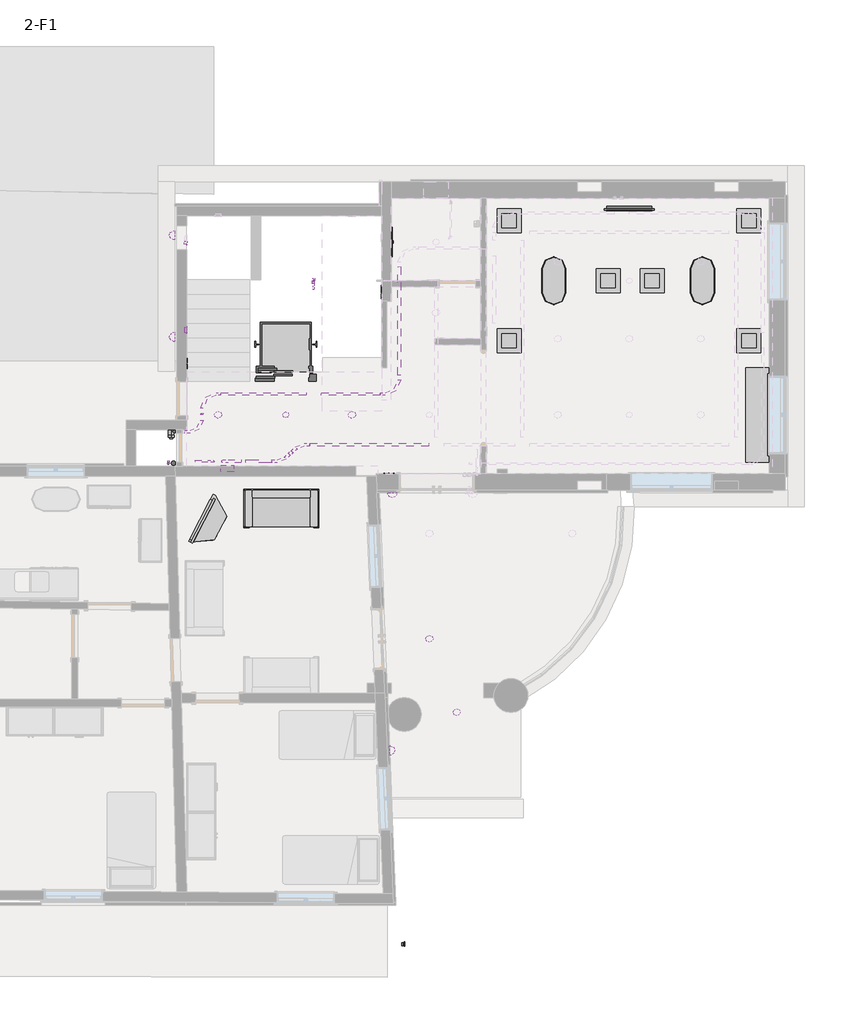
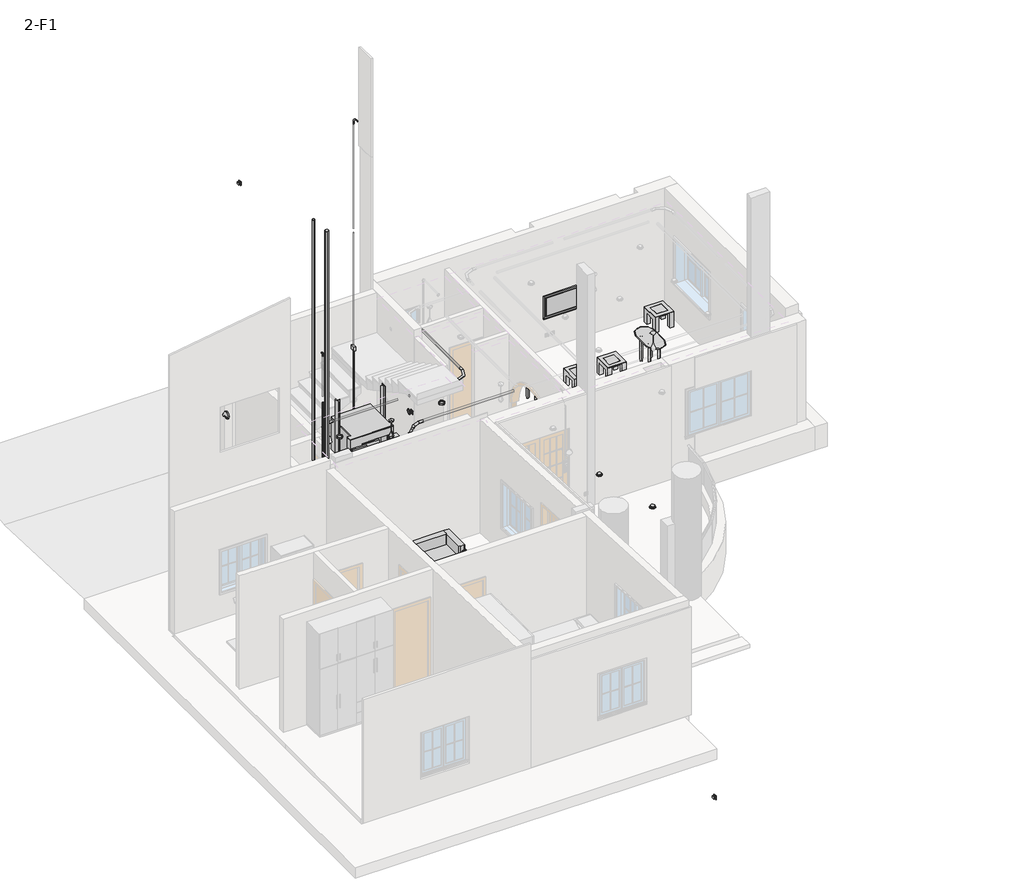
# One storey, part 4 of 6: 15 cable carrier segments, 14 furniture elements, 12 light fixtures, 11 cable carrier fittings, 6 switching devices, 5 pipe segments, 5 proxies, 3 pipe fittings.
"""IFC4 building model written with IfcOpenShell, lengths in millimetres."""

from ifc_helpers import new_model, si_unit, point, frame, frame_2d, origin, place, context, project, spatial, circle_curve, trimmed, segment, composite_curve, outline, extrude, transform, mapped, element, save
from components import distribution_board_24m_2_rows_275x370x140_6ba21ac3, m_electric_lift_4_person_wall_based_type_1_27931067, wall_mounted_socket_ups_wall_mounted_socket_ups_4524048d, m_conduit_elbow_aluminum_standard_a49322c3, m_conduit_elbow_aluminum_standard_2234b05d, m_conduit_elbow_steel_standard_5c2c710b, m_conduit_elbow_steel_standard_9fb14d21, m_conduit_elbow_steel_standard_abbd3826, m_conduit_elbow_without_fittings_emt_standard_47185c4a, m_conduit_elbow_without_fittings_emt_standard_d9bb421d, m_conduit_elbow_without_fittings_emt_standard_b68e504c, m_conduit_junction_box_tee_aluminum_standard_8073d2f8, furniture_40ec15d9, furniture_86dd63d7, furniture_3_furniture_3_a5dc318d, m_table_coffee_800_x_500x_500_ae3acebe, m_table_coffee_800_x_500x_500_b2e9b833, m_table_dining_oval_500x_1000mm_28df0ddd, m_table_dining_oval_500x_1000mm_d5481309, sideboard_1900x_510_x_970mm_7a39ddca, furniture_91679fb3, m_downlight_recessed_can_152mm_incandescent_120v_1ee42939, m_pendant_lamp_art_glass_led_standard_2036dae1, m_recessed_lamp_round_led_e6f06c98, street_light_07_uk_wall_mounted_94188376, m_bend_pvc_sch_40_dwv_standard_b153bf5a, m_plug_pvc_sch_40_dwv_standard_6c40de1c, m_tee_sanitary_pvc_sch_40_dwv_standard_d1848222, switching_device_8f59fbb7, switching_device_ab05ab5c

model = new_model("IFC4")

# Units and contexts
model_context = context("Model", 3, world=origin())
ifc_project = project(units=[si_unit("LENGTHUNIT", "METRE", prefix="MILLI")], contexts=[model_context])

# Site, building, storey
site = spatial("IfcSite", under=ifc_project)
building = spatial("IfcBuilding", under=site)
storey = spatial("IfcBuildingStorey", under=building, Name="2-F1", Elevation=3000.0)

# Proxies
placement = place(None, origin())
distribution_board_24m_2_rows_275x370x140_shape = distribution_board_24m_2_rows_275x370x140_6ba21ac3(model_context)
element("IfcBuildingElementProxy", 1, Name="Distribution Board : 24M 2 rows 275x370x140", ObjectType="Distribution Board : 24M 2 rows 275x370x140", at=placement, inside=storey, context=model_context, shape_type="MappedRepresentation", body=[
    mapped(distribution_board_24m_2_rows_275x370x140_shape, transform((-4017.4765921, 3212.4258078, 4200.0), x_axis=(-1.0, 0.0, 0.0), y_axis=(0.0, -1.0, 0.0), z_axis=(0.0, 0.0, 1.0))),
])
m_electric_lift_4_person_wall_based_type_1_shape = m_electric_lift_4_person_wall_based_type_1_27931067(model_context)
element("IfcBuildingElementProxy", 2, Name="M_Electric Lift-4 person wall based : Type 1", ObjectType="M_Electric Lift-4 person wall based : Type 1", at=placement, inside=storey, context=model_context, shape_type="MappedRepresentation", body=[
    mapped(m_electric_lift_4_person_wall_based_type_1_shape, transform((-2932.4765921, 5159.4560655, 3000.0), x_axis=(1.0, 0.0, 0.0), y_axis=(0.0, 1.0, 0.0), z_axis=(0.0, 0.0, 1.0))),
])
wall_mounted_socket_ups_wall_mounted_socket_ups_shape = wall_mounted_socket_ups_wall_mounted_socket_ups_4524048d(model_context)
element("IfcBuildingElementProxy", 3, Name="WALL MOUNTED SOCKET : WALL MOUNTED SOCKET", ObjectType="WALL MOUNTED SOCKET : WALL MOUNTED SOCKET", at=placement, inside=storey, context=model_context, shape_type="MappedRepresentation", body=[
    mapped(wall_mounted_socket_ups_wall_mounted_socket_ups_shape, transform((-2887.8606653, 3326.4863231, 3450.0), x_axis=(-1.0, 0.0, 0.0), y_axis=(0.0, 0.0, 1.0), z_axis=(0.0, 1.0, 0.0))),
])
element("IfcBuildingElementProxy", 4, Name="WALL MOUNTED SOCKET UPS : WALL MOUNTED SOCKET UPS", ObjectType="WALL MOUNTED SOCKET UPS : WALL MOUNTED SOCKET UPS", at=placement, inside=storey, context=model_context, shape_type="MappedRepresentation", body=[
    mapped(wall_mounted_socket_ups_wall_mounted_socket_ups_shape, transform((-4857.4765921, 7944.4560655, 11451.0), x_axis=(0.0, 1.0, 0.0), y_axis=(0.0, 0.0, 1.0), z_axis=(1.0, 0.0, 0.0))),
])
element("IfcBuildingElementProxy", 5, Name="WALL MOUNTED WATERPROOF SOCKET : WALL MOUNTED WATERPROOF SOCKET", ObjectType="WALL MOUNTED WATERPROOF SOCKET : WALL MOUNTED WATERPROOF SOCKET", at=placement, inside=storey, context=model_context, shape_type="MappedRepresentation", body=[
    mapped(wall_mounted_socket_ups_wall_mounted_socket_ups_shape, transform((-359.3951562, -6541.305082, 1081.0), x_axis=(0.0, 1.0, 0.0), y_axis=(0.0, 0.0, 1.0), z_axis=(1.0, 0.0, 0.0))),
])

# Cable carrier fittings
m_conduit_elbow_aluminum_standard_shape = m_conduit_elbow_aluminum_standard_a49322c3(model_context)
element("IfcCableCarrierFitting", 6, ObjectType="M_Conduit Elbow - Aluminum : Standard", at=placement, inside=storey, context=model_context, shape_type="MappedRepresentation", body=[
    mapped(m_conduit_elbow_aluminum_standard_shape, transform((-4542.2915332, 4040.3, 6269.835), x_axis=(1.0, 0.0, 0.0), y_axis=(0.0, 1.0, 0.0), z_axis=(0.0, 0.0, 1.0))),
])
m_conduit_elbow_aluminum_standard_2_shape = m_conduit_elbow_aluminum_standard_2234b05d(model_context)
element("IfcCableCarrierFitting", 7, ObjectType="M_Conduit Elbow - Aluminum : Standard", at=placement, inside=storey, context=model_context, shape_type="MappedRepresentation", body=[
    mapped(m_conduit_elbow_aluminum_standard_2_shape, transform((-2523.8703929, 3771.6620874, 6272.1), x_axis=(-1.0, 0.0, 0.0), y_axis=(0.0, -1.0, 0.0), z_axis=(0.0, 0.0, 1.0))),
])
element("IfcCableCarrierFitting", 8, ObjectType="M_Conduit Elbow - Aluminum : Standard", at=placement, inside=storey, context=model_context, shape_type="MappedRepresentation", body=[
    mapped(m_conduit_elbow_aluminum_standard_2_shape, transform((-2887.5, 3432.4, 6272.1), x_axis=(1.0, 0.0, 0.0), y_axis=(0.0, 1.0, 0.0), z_axis=(0.0, 0.0, 1.0))),
])
m_conduit_elbow_steel_standard_shape = m_conduit_elbow_steel_standard_5c2c710b(model_context)
element("IfcCableCarrierFitting", 9, ObjectType="M_Conduit Elbow - Steel : Standard", at=placement, inside=storey, context=model_context, shape_type="MappedRepresentation", body=[
    mapped(m_conduit_elbow_steel_standard_shape, transform((-2028.5640921, 5039.7000599, 2682.5401079), x_axis=(1.0, 0.0, 0.0), y_axis=(0.0, 0.9999999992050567, -3.987338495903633e-05), z_axis=(0.0, 3.987338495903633e-05, 0.9999999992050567))),
])
m_conduit_elbow_steel_standard_2_shape = m_conduit_elbow_steel_standard_9fb14d21(model_context)
element("IfcCableCarrierFitting", 10, ObjectType="M_Conduit Elbow - Steel : Standard", at=placement, inside=storey, context=model_context, shape_type="MappedRepresentation", body=[
    mapped(m_conduit_elbow_steel_standard_2_shape, transform((-464.4765921, 4820.3, 6269.835), x_axis=(1.0, 0.0, 0.0), y_axis=(0.0, 1.0, 0.0), z_axis=(0.0, 0.0, 1.0))),
])
element("IfcCableCarrierFitting", 11, ObjectType="M_Conduit Elbow - Steel : Standard", at=placement, inside=storey, context=model_context, shape_type="MappedRepresentation", body=[
    mapped(m_conduit_elbow_steel_standard_2_shape, transform((-4542.2915332, 4820.3, 6269.835), x_axis=(-1.0, 0.0, 0.0), y_axis=(0.0, -1.0, 0.0), z_axis=(0.0, 0.0, 1.0))),
])
m_conduit_elbow_steel_standard_3_shape = m_conduit_elbow_steel_standard_abbd3826(model_context)
element("IfcCableCarrierFitting", 12, ObjectType="M_Conduit Elbow - Steel : Standard", at=placement, inside=storey, context=model_context, shape_type="MappedRepresentation", body=[
    mapped(m_conduit_elbow_steel_standard_3_shape, transform((-2232.4765921, 7159.7000558, 12888.2999077), x_axis=(0.0, 0.0, 1.0), y_axis=(-3.9005169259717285e-06, -0.999999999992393, 0.0), z_axis=(0.999999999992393, -3.9005169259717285e-06, 0.0))),
])
m_conduit_elbow_without_fittings_emt_standard_shape = m_conduit_elbow_without_fittings_emt_standard_47185c4a(model_context)
element("IfcCableCarrierFitting", 13, ObjectType="M_Conduit Elbow - without Fittings - EMT : Standard", at=placement, inside=storey, context=model_context, shape_type="MappedRepresentation", body=[
    mapped(m_conduit_elbow_without_fittings_emt_standard_shape, transform((-4307.5, 3432.4, 6280.825), x_axis=(0.0, 0.0, 1.0), y_axis=(-1.0, 0.0, 0.0), z_axis=(0.0, -1.0, 0.0))),
])
m_conduit_elbow_without_fittings_emt_standard_2_shape = m_conduit_elbow_without_fittings_emt_standard_d9bb421d(model_context)
element("IfcCableCarrierFitting", 14, ObjectType="M_Conduit Elbow - without Fittings - EMT : Standard", at=placement, inside=storey, context=model_context, shape_type="MappedRepresentation", body=[
    mapped(m_conduit_elbow_without_fittings_emt_standard_2_shape, transform((-4107.5, 3432.4, 6272.1), x_axis=(0.0, 0.0, 1.0), y_axis=(1.0, 0.0, 0.0), z_axis=(0.0, 1.0, 0.0))),
])
m_conduit_elbow_without_fittings_emt_standard_3_shape = m_conduit_elbow_without_fittings_emt_standard_b68e504c(model_context)
element("IfcCableCarrierFitting", 15, ObjectType="M_Conduit Elbow - without Fittings - EMT : Standard", at=placement, inside=storey, context=model_context, shape_type="MappedRepresentation", body=[
    mapped(m_conduit_elbow_without_fittings_emt_standard_3_shape, transform((-3437.4765921, 5039.7000558, 2682.4363636), x_axis=(0.0, 0.0, 1.0), y_axis=(1.0, 0.0, 0.0), z_axis=(0.0, 1.0, 0.0))),
])
m_conduit_junction_box_tee_aluminum_standard_shape = m_conduit_junction_box_tee_aluminum_standard_8073d2f8(model_context)
element("IfcCableCarrierFitting", 16, ObjectType="M_Conduit Junction Box - Tee - Aluminum : Standard", at=placement, inside=storey, context=model_context, shape_type="MappedRepresentation", body=[
    mapped(m_conduit_junction_box_tee_aluminum_standard_shape, transform((-2232.4765921, 7159.7000558, 6288.29), x_axis=(0.0, 0.0, -1.0), y_axis=(0.0, 1.0, 0.0), z_axis=(1.0, 0.0, 0.0))),
])

# Cable carrier segments
element("IfcCableCarrierSegment", 17, ObjectType="Electrical Metallic Tubing (EMT)", at=placement, inside=storey, context=model_context, shape_type="SweptSolid", body=[
    extrude(outline(composite_curve([segment(trimmed(circle_curve(frame_2d((-3437.4765921, 5039.7000558)), 11.71), [point((-3425.7665921, 5039.7000558))], [point((-3437.4765921, 5027.9900558))], False, "CARTESIAN"), True, "CONTINUOUS"), segment(trimmed(circle_curve(frame_2d((-3437.4765921, 5039.7000558)), 11.71), [point((-3437.4765921, 5027.9900558))], [point((-3449.1865921, 5039.7000558))], False, "CARTESIAN"), True, "CONTINUOUS"), segment(trimmed(circle_curve(frame_2d((-3437.4765921, 5039.7000558)), 11.71), [point((-3449.1865921, 5039.7000558))], [point((-3437.4765921, 5051.4100558))], False, "CARTESIAN"), True, "CONTINUOUS"), segment(trimmed(circle_curve(frame_2d((-3437.4765921, 5039.7000558)), 11.71), [point((-3437.4765921, 5051.4100558))], [point((-3425.7665921, 5039.7000558))], False, "CARTESIAN"), True, "CONTINUOUS")], self_intersect=False)), frame((0.0, 0.0, 1622.4363636), z_axis=(0.0, 0.0, 1.0), x_axis=(1.0, 0.0, 0.0)), (0.0, 0.0, 1.0), 876.84),
])
element("IfcCableCarrierSegment", 18, ObjectType="Low Current", at=placement, inside=storey, context=model_context, shape_type="SweptSolid", body=[
    extrude(outline(composite_curve([segment(trimmed(circle_curve(frame_2d((5039.7000599, 2682.5401079)), 11.71), [point((5027.9900599, 2682.5405748))], [point((5039.7005268, 2694.2501078))], False, "CARTESIAN"), True, "CONTINUOUS"), segment(trimmed(circle_curve(frame_2d((5039.7000599, 2682.5401079)), 11.71), [point((5039.7005268, 2694.2501078))], [point((5051.4100599, 2682.5396409))], False, "CARTESIAN"), True, "CONTINUOUS"), segment(trimmed(circle_curve(frame_2d((5039.7000599, 2682.5401079)), 11.71), [point((5051.4100599, 2682.5396409))], [point((5039.699593, 2670.8301079))], False, "CARTESIAN"), True, "CONTINUOUS"), segment(trimmed(circle_curve(frame_2d((5039.7000599, 2682.5401079)), 11.71), [point((5039.699593, 2670.8301079))], [point((5027.9900599, 2682.5405748))], False, "CARTESIAN"), True, "CONTINUOUS")], self_intersect=False)), frame((-3254.3165921, 0.0, 0.0), z_axis=(1.0, 0.0, 0.0), x_axis=(0.0, 1.0, 0.0)), (0.0, 0.0, 1.0), 1036.84),
])
element("IfcCableCarrierSegment", 19, ObjectType="Low Current", at=placement, inside=storey, context=model_context, shape_type="SweptSolid", body=[
    extrude(outline(composite_curve([segment(trimmed(circle_curve(frame_2d((-2232.4765921, 7159.7000558)), 11.71), [point((-2220.7665921, 7159.7000558))], [point((-2232.4765921, 7147.9900558))], False, "CARTESIAN"), True, "CONTINUOUS"), segment(trimmed(circle_curve(frame_2d((-2232.4765921, 7159.7000558)), 11.71), [point((-2232.4765921, 7147.9900558))], [point((-2244.1865921, 7159.7000558))], False, "CARTESIAN"), True, "CONTINUOUS"), segment(trimmed(circle_curve(frame_2d((-2232.4765921, 7159.7000558)), 11.71), [point((-2244.1865921, 7159.7000558))], [point((-2232.4765921, 7171.4100558))], False, "CARTESIAN"), True, "CONTINUOUS"), segment(trimmed(circle_curve(frame_2d((-2232.4765921, 7159.7000558)), 11.71), [point((-2232.4765921, 7171.4100558))], [point((-2220.7665921, 7159.7000558))], False, "CARTESIAN"), True, "CONTINUOUS")], self_intersect=False)), frame((0.0, 0.0, 2740.3951846), z_axis=(0.0, 0.0, 1.0), x_axis=(1.0, 0.0, 0.0)), (0.0, 0.0, 1.0), 3500.0),
])
element("IfcCableCarrierSegment", 20, ObjectType="Low Current", at=placement, inside=storey, context=model_context, shape_type="SweptSolid", body=[
    extrude(outline(composite_curve([segment(trimmed(circle_curve(frame_2d((-5112.4765921, 4049.2572999)), 27.9), [point((-5140.3765921, 4049.2572999))], [point((-5112.4765921, 4077.1572999))], False, "CARTESIAN"), True, "CONTINUOUS"), segment(trimmed(circle_curve(frame_2d((-5112.4765921, 4049.2572999)), 27.9), [point((-5112.4765921, 4077.1572999))], [point((-5084.5765921, 4049.2572999))], False, "CARTESIAN"), True, "CONTINUOUS"), segment(trimmed(circle_curve(frame_2d((-5112.4765921, 4049.2572999)), 27.9), [point((-5084.5765921, 4049.2572999))], [point((-5112.4765921, 4021.3572999))], False, "CARTESIAN"), True, "CONTINUOUS"), segment(trimmed(circle_curve(frame_2d((-5112.4765921, 4049.2572999)), 27.9), [point((-5112.4765921, 4021.3572999))], [point((-5140.3765921, 4049.2572999))], False, "CARTESIAN"), True, "CONTINUOUS")], self_intersect=False)), frame((0.0, 0.0, -3364.2), z_axis=(0.0, 0.0, 1.0), x_axis=(1.0, 0.0, 0.0)), (0.0, 0.0, 1.0), 5915.2),
])
element("IfcCableCarrierSegment", 21, ObjectType="Low Current", at=placement, inside=storey, context=model_context, shape_type="SweptSolid", body=[
    extrude(outline(composite_curve([segment(trimmed(circle_curve(frame_2d((-5112.4765921, 4049.2572999)), 27.9), [point((-5140.3765921, 4049.2572999))], [point((-5112.4765921, 4077.1572999))], False, "CARTESIAN"), True, "CONTINUOUS"), segment(trimmed(circle_curve(frame_2d((-5112.4765921, 4049.2572999)), 27.9), [point((-5112.4765921, 4077.1572999))], [point((-5084.5765921, 4049.2572999))], False, "CARTESIAN"), True, "CONTINUOUS"), segment(trimmed(circle_curve(frame_2d((-5112.4765921, 4049.2572999)), 27.9), [point((-5084.5765921, 4049.2572999))], [point((-5112.4765921, 4021.3572999))], False, "CARTESIAN"), True, "CONTINUOUS"), segment(trimmed(circle_curve(frame_2d((-5112.4765921, 4049.2572999)), 27.9), [point((-5112.4765921, 4021.3572999))], [point((-5140.3765921, 4049.2572999))], False, "CARTESIAN"), True, "CONTINUOUS")], self_intersect=False)), frame((0.0, 0.0, 2869.0), z_axis=(0.0, 0.0, 1.0), x_axis=(1.0, 0.0, 0.0)), (0.0, 0.0, 1.0), 9986.8),
])
element("IfcCableCarrierSegment", 22, ObjectType="Low Current", at=placement, inside=storey, context=model_context, shape_type="SweptSolid", body=[
    extrude(outline(composite_curve([segment(trimmed(circle_curve(frame_2d((4820.3, 6269.835)), 27.9), [point((4792.4, 6269.835))], [point((4820.3, 6297.735))], False, "CARTESIAN"), True, "CONTINUOUS"), segment(trimmed(circle_curve(frame_2d((4820.3, 6269.835)), 27.9), [point((4820.3, 6297.735))], [point((4848.2, 6269.835))], False, "CARTESIAN"), True, "CONTINUOUS"), segment(trimmed(circle_curve(frame_2d((4820.3, 6269.835)), 27.9), [point((4848.2, 6269.835))], [point((4820.3, 6241.935))], False, "CARTESIAN"), True, "CONTINUOUS"), segment(trimmed(circle_curve(frame_2d((4820.3, 6269.835)), 27.9), [point((4820.3, 6241.935))], [point((4792.4, 6269.835))], False, "CARTESIAN"), True, "CONTINUOUS")], self_intersect=False)), frame((-4148.5915332, 0.0, 0.0), z_axis=(1.0, 0.0, 0.0), x_axis=(0.0, 1.0, 0.0)), (0.0, 0.0, 1.0), 1757.1149411),
])
element("IfcCableCarrierSegment", 23, ObjectType="Low Current", at=placement, inside=storey, context=model_context, shape_type="SweptSolid", body=[
    extrude(outline(composite_curve([segment(trimmed(circle_curve(frame_2d((4820.3, 6269.835)), 27.9), [point((4792.4, 6269.835))], [point((4820.3, 6297.735))], False, "CARTESIAN"), True, "CONTINUOUS"), segment(trimmed(circle_curve(frame_2d((4820.3, 6269.835)), 27.9), [point((4820.3, 6297.735))], [point((4848.2, 6269.835))], False, "CARTESIAN"), True, "CONTINUOUS"), segment(trimmed(circle_curve(frame_2d((4820.3, 6269.835)), 27.9), [point((4848.2, 6269.835))], [point((4820.3, 6241.935))], False, "CARTESIAN"), True, "CONTINUOUS"), segment(trimmed(circle_curve(frame_2d((4820.3, 6269.835)), 27.9), [point((4820.3, 6241.935))], [point((4792.4, 6269.835))], False, "CARTESIAN"), True, "CONTINUOUS")], self_intersect=False)), frame((-2073.4765921, 0.0, 0.0), z_axis=(1.0, 0.0, 0.0), x_axis=(0.0, 1.0, 0.0)), (0.0, 0.0, 1.0), 1215.3),
])
element("IfcCableCarrierSegment", 24, ObjectType="Low Current", at=placement, inside=storey, context=model_context, shape_type="SweptSolid", body=[
    extrude(outline(composite_curve([segment(trimmed(circle_curve(frame_2d((6269.835, -464.4765921)), 27.9), [point((6269.835, -492.3765921))], [point((6241.935, -464.4765921))], False, "CARTESIAN"), True, "CONTINUOUS"), segment(trimmed(circle_curve(frame_2d((6269.835, -464.4765921)), 27.9), [point((6241.935, -464.4765921))], [point((6269.835, -436.5765921))], False, "CARTESIAN"), True, "CONTINUOUS"), segment(trimmed(circle_curve(frame_2d((6269.835, -464.4765921)), 27.9), [point((6269.835, -436.5765921))], [point((6297.735, -464.4765921))], False, "CARTESIAN"), True, "CONTINUOUS"), segment(trimmed(circle_curve(frame_2d((6269.835, -464.4765921)), 27.9), [point((6297.735, -464.4765921))], [point((6269.835, -492.3765921))], False, "CARTESIAN"), True, "CONTINUOUS")], self_intersect=False)), frame((0.0, 5214.0, 0.0), z_axis=(0.0, 1.0, 0.0), x_axis=(0.0, 0.0, 1.0)), (0.0, 0.0, 1.0), 2232.6),
])
element("IfcCableCarrierSegment", 25, ObjectType="Low Current", at=placement, inside=storey, context=model_context, shape_type="SweptSolid", body=[
    extrude(outline(composite_curve([segment(trimmed(circle_curve(frame_2d((6269.835, -4542.2915332)), 27.9), [point((6269.835, -4514.3915332))], [point((6297.735, -4542.2915332))], False, "CARTESIAN"), True, "CONTINUOUS"), segment(trimmed(circle_curve(frame_2d((6269.835, -4542.2915332)), 27.9), [point((6297.735, -4542.2915332))], [point((6269.835, -4570.1915332))], False, "CARTESIAN"), True, "CONTINUOUS"), segment(trimmed(circle_curve(frame_2d((6269.835, -4542.2915332)), 27.9), [point((6269.835, -4570.1915332))], [point((6241.935, -4542.2915332))], False, "CARTESIAN"), True, "CONTINUOUS"), segment(trimmed(circle_curve(frame_2d((6269.835, -4542.2915332)), 27.9), [point((6241.935, -4542.2915332))], [point((6269.835, -4514.3915332))], False, "CARTESIAN"), True, "CONTINUOUS")], self_intersect=False)), frame((0.0, 4395.9, 0.0), z_axis=(0.0, 1.0, 0.0), x_axis=(0.0, 0.0, 1.0)), (0.0, 0.0, 1.0), 30.7),
])
element("IfcCableCarrierSegment", 26, ObjectType="Low Current", at=placement, inside=storey, context=model_context, shape_type="SweptSolid", body=[
    extrude(outline(composite_curve([segment(trimmed(circle_curve(frame_2d((-2232.4765921, 7159.7000558)), 11.71), [point((-2220.7665921, 7159.7000558))], [point((-2232.4765921, 7147.9900558))], False, "CARTESIAN"), True, "CONTINUOUS"), segment(trimmed(circle_curve(frame_2d((-2232.4765921, 7159.7000558)), 11.71), [point((-2232.4765921, 7147.9900558))], [point((-2244.1865921, 7159.7000558))], False, "CARTESIAN"), True, "CONTINUOUS"), segment(trimmed(circle_curve(frame_2d((-2232.4765921, 7159.7000558)), 11.71), [point((-2244.1865921, 7159.7000558))], [point((-2232.4765921, 7171.4100558))], False, "CARTESIAN"), True, "CONTINUOUS"), segment(trimmed(circle_curve(frame_2d((-2232.4765921, 7159.7000558)), 11.71), [point((-2232.4765921, 7171.4100558))], [point((-2220.7665921, 7159.7000558))], False, "CARTESIAN"), True, "CONTINUOUS")], self_intersect=False)), frame((0.0, 0.0, 9696.29), z_axis=(0.0, 0.0, 1.0), x_axis=(1.0, 0.0, 0.0)), (0.0, 0.0, 1.0), 3003.096802),
])
element("IfcCableCarrierSegment", 27, ObjectType="Low Current", at=placement, inside=storey, context=model_context, shape_type="SweptSolid", body=[
    extrude(outline(composite_curve([segment(trimmed(circle_curve(frame_2d((-2232.4765921, 7159.7000558)), 11.71), [point((-2220.7665921, 7159.7000558))], [point((-2232.4765921, 7147.9900558))], False, "CARTESIAN"), True, "CONTINUOUS"), segment(trimmed(circle_curve(frame_2d((-2232.4765921, 7159.7000558)), 11.71), [point((-2232.4765921, 7147.9900558))], [point((-2244.1865921, 7159.7000558))], False, "CARTESIAN"), True, "CONTINUOUS"), segment(trimmed(circle_curve(frame_2d((-2232.4765921, 7159.7000558)), 11.71), [point((-2244.1865921, 7159.7000558))], [point((-2232.4765921, 7171.4100558))], False, "CARTESIAN"), True, "CONTINUOUS"), segment(trimmed(circle_curve(frame_2d((-2232.4765921, 7159.7000558)), 11.71), [point((-2232.4765921, 7171.4100558))], [point((-2220.7665921, 7159.7000558))], False, "CARTESIAN"), True, "CONTINUOUS")], self_intersect=False)), frame((0.0, 0.0, 6346.29), z_axis=(0.0, 0.0, 1.0), x_axis=(1.0, 0.0, 0.0)), (0.0, 0.0, 1.0), 3234.0),
])
element("IfcCableCarrierSegment", 28, ObjectType="Power", at=placement, inside=storey, context=model_context, shape_type="SweptSolid", body=[
    extrude(outline(composite_curve([segment(trimmed(circle_curve(frame_2d((3771.6620874, 6272.1)), 30.165), [point((3801.8270874, 6272.1))], [point((3771.6620874, 6241.935))], False, "CARTESIAN"), True, "CONTINUOUS"), segment(trimmed(circle_curve(frame_2d((3771.6620874, 6272.1)), 30.165), [point((3771.6620874, 6241.935))], [point((3741.4970874, 6272.1))], False, "CARTESIAN"), True, "CONTINUOUS"), segment(trimmed(circle_curve(frame_2d((3771.6620874, 6272.1)), 30.165), [point((3741.4970874, 6272.1))], [point((3771.6620874, 6302.265))], False, "CARTESIAN"), True, "CONTINUOUS"), segment(trimmed(circle_curve(frame_2d((3771.6620874, 6272.1)), 30.165), [point((3771.6620874, 6302.265))], [point((3801.8270874, 6272.1))], False, "CARTESIAN"), True, "CONTINUOUS")], self_intersect=False)), frame((-2314.4845421, 0.0, 0.0), z_axis=(1.0, 0.0, 0.0), x_axis=(0.0, 1.0, 0.0)), (0.0, 0.0, 1.0), 2458.0079499),
])
element("IfcCableCarrierSegment", 29, ObjectType="Power", at=placement, inside=storey, context=model_context, shape_type="SweptSolid", body=[
    extrude(outline(composite_curve([segment(trimmed(circle_curve(frame_2d((0.0, 30.165)), 30.165), [point((30.165, 30.165))], [point((0.0, 0.0))], False, "CARTESIAN"), True, "CONTINUOUS"), segment(trimmed(circle_curve(frame_2d((0.0, 30.165)), 30.165), [point((0.0, 0.0))], [point((-30.165, 30.165))], False, "CARTESIAN"), True, "CONTINUOUS"), segment(trimmed(circle_curve(frame_2d((0.0, 30.165)), 30.165), [point((-30.165, 30.165))], [point((0.0, 60.33))], False, "CARTESIAN"), True, "CONTINUOUS"), segment(trimmed(circle_curve(frame_2d((0.0, 30.165)), 30.165), [point((0.0, 60.33))], [point((30.165, 30.165))], False, "CARTESIAN"), True, "CONTINUOUS")], self_intersect=False)), frame((-2734.4010067, 3575.2395351, 6302.265), z_axis=(0.7311811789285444, 0.6821833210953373, -6.838582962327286e-12), x_axis=(0.6821833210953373, -0.7311811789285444, 7.329248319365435e-12)), (0.0, 0.0, 1.0), 78.5463606),
])
element("IfcCableCarrierSegment", 30, ObjectType="Power", at=placement, inside=storey, context=model_context, shape_type="SweptSolid", body=[
    extrude(outline(composite_curve([segment(trimmed(circle_curve(frame_2d((3432.4, 6272.1)), 30.165), [point((3402.235, 6272.1))], [point((3432.4, 6302.265))], False, "CARTESIAN"), True, "CONTINUOUS"), segment(trimmed(circle_curve(frame_2d((3432.4, 6272.1)), 30.165), [point((3432.4, 6302.265))], [point((3462.565, 6272.1))], False, "CARTESIAN"), True, "CONTINUOUS"), segment(trimmed(circle_curve(frame_2d((3432.4, 6272.1)), 30.165), [point((3462.565, 6272.1))], [point((3432.4, 6241.935))], False, "CARTESIAN"), True, "CONTINUOUS"), segment(trimmed(circle_curve(frame_2d((3432.4, 6272.1)), 30.165), [point((3432.4, 6241.935))], [point((3402.235, 6272.1))], False, "CARTESIAN"), True, "CONTINUOUS")], self_intersect=False)), frame((-3631.25, 0.0, 0.0), z_axis=(1.0, 0.0, 0.0), x_axis=(0.0, 1.0, 0.0)), (0.0, 0.0, 1.0), 534.3641491),
])
element("IfcCableCarrierSegment", 31, ObjectType="Power", at=placement, inside=storey, context=model_context, shape_type="SweptSolid", body=[
    extrude(outline(composite_curve([segment(trimmed(circle_curve(frame_2d((-5128.468151, 3394.2560655)), 44.45), [point((-5172.918151, 3394.2560655))], [point((-5128.468151, 3438.7060655))], False, "CARTESIAN"), True, "CONTINUOUS"), segment(trimmed(circle_curve(frame_2d((-5128.468151, 3394.2560655)), 44.45), [point((-5128.468151, 3438.7060655))], [point((-5084.018151, 3394.2560655))], False, "CARTESIAN"), True, "CONTINUOUS"), segment(trimmed(circle_curve(frame_2d((-5128.468151, 3394.2560655)), 44.45), [point((-5084.018151, 3394.2560655))], [point((-5128.468151, 3349.8060655))], False, "CARTESIAN"), True, "CONTINUOUS"), segment(trimmed(circle_curve(frame_2d((-5128.468151, 3394.2560655)), 44.45), [point((-5128.468151, 3349.8060655))], [point((-5172.918151, 3394.2560655))], False, "CARTESIAN"), True, "CONTINUOUS")], self_intersect=False)), frame((0.0, 0.0, -600.0), z_axis=(0.0, 0.0, 1.0), x_axis=(1.0, 0.0, 0.0)), (0.0, 0.0, 1.0), 13540.0),
])

# Furniture
furniture_shape = furniture_40ec15d9(model_context)
element("IfcFurniture", 32, ObjectType="M_TV Stand : M_TV Stand", at=placement, inside=storey, context=model_context, shape_type="MappedRepresentation", body=[
    mapped(furniture_shape, transform((-4097.7601109, 2163.8383378, 3000.0), x_axis=(-0.46448476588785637, -0.8855811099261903, 0.0), y_axis=(0.8855811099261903, -0.46448476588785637, 0.0), z_axis=(0.0, 0.0, 1.0))),
])
furniture_2_shape = furniture_86dd63d7(model_context)
element("IfcFurniture", 33, ObjectType="Couch_-_Le_Corbusier_Family_-_1_2_3_seater_9476 : 2 posti", at=placement, inside=storey, context=model_context, shape_type="MappedRepresentation", body=[
    mapped(furniture_2_shape, transform((-2900.8161495, 2630.6486583, 3000.0), x_axis=(1.0, 0.0, 0.0), y_axis=(0.0, 1.0, 0.0), z_axis=(0.0, 0.0, 1.0))),
])
furniture_3_furniture_3_shape = furniture_3_furniture_3_a5dc318d(model_context)
element("IfcFurniture", 34, ObjectType="Furniture 3 : Furniture 3", at=placement, inside=storey, context=model_context, shape_type="MappedRepresentation", body=[
    mapped(furniture_3_furniture_3_shape, transform((0.0, 0.0, 0.0), x_axis=(1.0, 0.0, 0.0), y_axis=(0.0, 1.0, 0.0), z_axis=(0.0, 0.0, 1.0))),
])
m_table_coffee_800_x_500x_500_shape = m_table_coffee_800_x_500x_500_ae3acebe(model_context)
element("IfcFurniture", 35, ObjectType="M_Table-Coffee : 800 x 500x 500", at=placement, inside=storey, context=model_context, shape_type="MappedRepresentation", body=[
    mapped(m_table_coffee_800_x_500x_500_shape, transform((1786.0076412, 8304.7889222, 3000.0), x_axis=(1.0, 0.0, 0.0), y_axis=(0.0, 1.0, 0.0), z_axis=(0.0, 0.0, 1.0))),
])
element("IfcFurniture", 36, ObjectType="M_Table-Coffee : 800 x 500x 500", at=placement, inside=storey, context=model_context, shape_type="MappedRepresentation", body=[
    mapped(m_table_coffee_800_x_500x_500_shape, transform((6737.4608255, 8304.7889222, 3000.0), x_axis=(1.0, 0.0, 0.0), y_axis=(0.0, 1.0, 0.0), z_axis=(0.0, 0.0, 1.0))),
])
element("IfcFurniture", 37, ObjectType="M_Table-Coffee : 800 x 500x 500", at=placement, inside=storey, context=model_context, shape_type="MappedRepresentation", body=[
    mapped(m_table_coffee_800_x_500x_500_shape, transform((3831.7342333, 7066.4510096, 3000.0), x_axis=(1.0, 0.0, 0.0), y_axis=(0.0, 1.0, 0.0), z_axis=(0.0, 0.0, 1.0))),
])
element("IfcFurniture", 38, ObjectType="M_Table-Coffee : 800 x 500x 500", at=placement, inside=storey, context=model_context, shape_type="MappedRepresentation", body=[
    mapped(m_table_coffee_800_x_500x_500_shape, transform((4740.793816, 7066.4510096, 3000.0), x_axis=(1.0, 0.0, 0.0), y_axis=(0.0, 1.0, 0.0), z_axis=(0.0, 0.0, 1.0))),
])
m_table_coffee_800_x_500x_500_2_shape = m_table_coffee_800_x_500x_500_b2e9b833(model_context)
element("IfcFurniture", 39, ObjectType="M_Table-Coffee : 800 x 500x 500", at=placement, inside=storey, context=model_context, shape_type="MappedRepresentation", body=[
    mapped(m_table_coffee_800_x_500x_500_2_shape, transform((1786.0076412, 6018.5352525, 3000.0), x_axis=(1.0, 0.0, 0.0), y_axis=(0.0, 1.0, 0.0), z_axis=(0.0, 0.0, 1.0))),
])
element("IfcFurniture", 40, ObjectType="M_Table-Coffee : 800 x 500x 500", at=placement, inside=storey, context=model_context, shape_type="MappedRepresentation", body=[
    mapped(m_table_coffee_800_x_500x_500_2_shape, transform((6737.4608255, 6018.5352525, 3000.0), x_axis=(1.0, 0.0, 0.0), y_axis=(0.0, 1.0, 0.0), z_axis=(0.0, 0.0, 1.0))),
])
m_table_dining_oval_500x_1000mm_shape = m_table_dining_oval_500x_1000mm_28df0ddd(model_context)
element("IfcFurniture", 41, ObjectType="M_Table-Dining Oval : 500x 1000mm", at=placement, inside=storey, context=model_context, shape_type="MappedRepresentation", body=[
    mapped(m_table_dining_oval_500x_1000mm_shape, transform((5440.1301427, 7563.4817595, 3000.0), x_axis=(0.0, 1.0, 0.0), y_axis=(-1.0, 0.0, 0.0), z_axis=(0.0, 0.0, 1.0))),
])
m_table_dining_oval_500x_1000mm_2_shape = m_table_dining_oval_500x_1000mm_d5481309(model_context)
element("IfcFurniture", 42, ObjectType="M_Table-Dining Oval : 500x 1000mm", at=placement, inside=storey, context=model_context, shape_type="MappedRepresentation", body=[
    mapped(m_table_dining_oval_500x_1000mm_2_shape, transform((3085.3201129, 7563.4817595, 3000.0), x_axis=(0.0, 1.0, 0.0), y_axis=(-1.0, 0.0, 0.0), z_axis=(0.0, 0.0, 1.0))),
])
sideboard_1900x_510_x_970mm_shape = sideboard_1900x_510_x_970mm_7a39ddca(model_context)
element("IfcFurniture", 43, ObjectType="Sideboard : 1900x 510 x 970mm", at=placement, inside=storey, context=model_context, shape_type="MappedRepresentation", body=[
    mapped(sideboard_1900x_510_x_970mm_shape, transform((6578.3604538, 4685.1462451, 3000.0), x_axis=(0.0, 1.0, 0.0), y_axis=(-1.0, 0.0, 0.0), z_axis=(0.0, 0.0, 1.0))),
])
furniture_3_shape = furniture_91679fb3(model_context)
element("IfcFurniture", 44, ObjectType="Television - Plasma : 42\"", at=placement, inside=storey, context=model_context, shape_type="MappedRepresentation", body=[
    mapped(furniture_3_shape, transform((-4606.3795276, 2184.4552733, 3500.0), x_axis=(0.46448476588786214, 0.8855811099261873, 0.0), y_axis=(-0.8855811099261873, 0.46448476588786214, 0.0), z_axis=(0.0, 0.0, 1.0))),
])
element("IfcFurniture", 45, ObjectType="Television - Plasma : 42\"", at=placement, inside=storey, context=model_context, shape_type="MappedRepresentation", body=[
    mapped(furniture_3_shape, transform((4228.3734079, 8701.6620874, 4100.0), x_axis=(1.0, 0.0, 0.0), y_axis=(0.0, 1.0, 0.0), z_axis=(0.0, 0.0, 1.0))),
])

# Light fixtures
m_downlight_recessed_can_152mm_incandescent_120v_shape = m_downlight_recessed_can_152mm_incandescent_120v_1ee42939(model_context)
element("IfcLightFixture", 46, ObjectType="M_Downlight - Recessed Can : 152mm Incandescent - 120V", at=placement, inside=storey, context=model_context, shape_type="MappedRepresentation", body=[
    mapped(m_downlight_recessed_can_152mm_incandescent_120v_shape, transform((-1442.4765921, 4390.5529852, 3585.4), x_axis=(1.0, 0.0, 0.0), y_axis=(0.0, 1.0, 0.0), z_axis=(0.0, 0.0, 1.0))),
])
element("IfcLightFixture", 47, ObjectType="M_Downlight - Recessed Can : 152mm Incandescent - 120V", at=placement, inside=storey, context=model_context, shape_type="MappedRepresentation", body=[
    mapped(m_downlight_recessed_can_152mm_incandescent_120v_shape, transform((-4207.4765921, 4390.5529852, 3585.4), x_axis=(1.0, 0.0, 0.0), y_axis=(0.0, 1.0, 0.0), z_axis=(0.0, 0.0, 1.0))),
])
m_pendant_lamp_art_glass_led_standard_shape = m_pendant_lamp_art_glass_led_standard_2036dae1(model_context)
element("IfcLightFixture", 48, ObjectType="M_Pendant Lamp - Art Glass - LED : Standard", at=placement, inside=storey, context=model_context, shape_type="MappedRepresentation", body=[
    mapped(m_pendant_lamp_art_glass_led_standard_shape, transform((-2807.4765921, 4391.4659262, 6100.0), x_axis=(0.0, 1.0, 0.0), y_axis=(1.0, 0.0, 0.0), z_axis=(0.0, 0.0, -1.0))),
])
m_recessed_lamp_round_led_shape = m_recessed_lamp_round_led_e6f06c98(model_context)
element("IfcLightFixture", 49, ObjectType="M_Recessed Lamp - Round - LED : 100mm Trimless Downlight", at=placement, inside=storey, context=model_context, shape_type="MappedRepresentation", body=[
    mapped(m_recessed_lamp_round_led_shape, transform((-4857.4765921, 6146.0955313, 5289.1812865), x_axis=(0.0, 1.0, 0.0), y_axis=(0.0, 0.0, 1.0), z_axis=(1.0, 0.0, 0.0))),
])
element("IfcLightFixture", 50, ObjectType="M_Recessed Lamp - Round - LED : 100mm Trimless Downlight", at=placement, inside=storey, context=model_context, shape_type="MappedRepresentation", body=[
    mapped(m_recessed_lamp_round_led_shape, transform((-827.4765921, 6993.0590764, 4070.0), x_axis=(0.0, -1.0, 0.0), y_axis=(0.0, 0.0, 1.0), z_axis=(-1.0, 0.0, 0.0))),
])
element("IfcLightFixture", 51, ObjectType="M_Recessed Lamp - Round - LED : 100mm Trimless Downlight", at=placement, inside=storey, context=model_context, shape_type="MappedRepresentation", body=[
    mapped(m_recessed_lamp_round_led_shape, transform((721.661449, -1751.0695503, 6100.0), x_axis=(1.0, 0.0, 0.0), y_axis=(0.0, -1.0, 0.0), z_axis=(0.0, 0.0, -1.0))),
])
element("IfcLightFixture", 52, ObjectType="M_Recessed Lamp - Round - LED : 100mm Trimless Downlight", at=placement, inside=storey, context=model_context, shape_type="MappedRepresentation", body=[
    mapped(m_recessed_lamp_round_led_shape, transform((-4857.4765921, 6146.0955313, 2530.8695982), x_axis=(0.0, 1.0, 0.0), y_axis=(0.0, 0.0, 1.0), z_axis=(1.0, 0.0, 0.0))),
])
element("IfcLightFixture", 53, ObjectType="M_Recessed Lamp - Round - LED : 100mm Trimless Downlight", at=placement, inside=storey, context=model_context, shape_type="MappedRepresentation", body=[
    mapped(m_recessed_lamp_round_led_shape, transform((157.497375, -232.0848274, 6300.0), x_axis=(1.0, 0.0, 0.0), y_axis=(0.0, -1.0, 0.0), z_axis=(0.0, 0.0, -1.0))),
])
street_light_07_uk_wall_mounted_shape = street_light_07_uk_wall_mounted_94188376(model_context)
element("IfcLightFixture", 54, ObjectType="Street Light 07 (UK) : Wall Mounted", at=placement, inside=storey, context=model_context, shape_type="MappedRepresentation", body=[
    mapped(street_light_07_uk_wall_mounted_shape, transform((-484.9896086, 2805.6486583, 2521.3392083), x_axis=(-1.0, 0.0, 0.0), y_axis=(0.0, -1.0, 0.0), z_axis=(0.0, 0.0, 1.0))),
])
element("IfcLightFixture", 55, ObjectType="Street Light 07 (UK) : Wall Mounted", at=placement, inside=storey, context=model_context, shape_type="MappedRepresentation", body=[
    mapped(street_light_07_uk_wall_mounted_shape, transform((-694.214759, -2419.5499767, 2521.3392083), x_axis=(0.03991052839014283, -0.9992032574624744, 0.0), y_axis=(0.9992032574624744, 0.03991052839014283, 0.0), z_axis=(0.0, 0.0, 1.0))),
])
element("IfcLightFixture", 56, ObjectType="Street Light 07 (UK) : Wall Mounted", at=placement, inside=storey, context=model_context, shape_type="MappedRepresentation", body=[
    mapped(street_light_07_uk_wall_mounted_shape, transform((-5082.4765921, 7976.6620874, 2521.3392083), x_axis=(0.0, 1.0, 0.0), y_axis=(-1.0, 0.0, 0.0), z_axis=(0.0, 0.0, 1.0))),
])
element("IfcLightFixture", 57, ObjectType="Street Light 07 (UK) : Wall Mounted", at=placement, inside=storey, context=model_context, shape_type="MappedRepresentation", body=[
    mapped(street_light_07_uk_wall_mounted_shape, transform((-5082.4765921, 5874.4560655, 2521.3392083), x_axis=(0.0, 1.0, 0.0), y_axis=(-1.0, 0.0, 0.0), z_axis=(0.0, 0.0, 1.0))),
])

# Pipe fittings
m_bend_pvc_sch_40_dwv_standard_shape = m_bend_pvc_sch_40_dwv_standard_b153bf5a(model_context)
element("IfcPipeFitting", 58, ObjectType="M_Bend - PVC - Sch 40 - DWV : Standard", at=placement, inside=storey, context=model_context, shape_type="MappedRepresentation", body=[
    mapped(m_bend_pvc_sch_40_dwv_standard_shape, transform((-5234.2694836, 3387.0285321, 9450.0), x_axis=(0.0, 0.0, 1.0), y_axis=(0.0, 1.0, 0.0), z_axis=(-1.0, 0.0, 0.0))),
])
m_plug_pvc_sch_40_dwv_standard_shape = m_plug_pvc_sch_40_dwv_standard_6c40de1c(model_context)
element("IfcPipeFitting", 59, ObjectType="M_Plug - PVC - Sch 40 - DWV : Standard", at=placement, inside=storey, context=model_context, shape_type="MappedRepresentation", body=[
    mapped(m_plug_pvc_sch_40_dwv_standard_shape, transform((-5176.0238316, 3927.0035321, 2865.0), x_axis=(0.0, -1.0, 0.0), y_axis=(0.0, 0.0, 1.0), z_axis=(-1.0, 0.0, 0.0))),
])
m_tee_sanitary_pvc_sch_40_dwv_standard_shape = m_tee_sanitary_pvc_sch_40_dwv_standard_d1848222(model_context)
element("IfcPipeFitting", 60, ObjectType="M_Tee Sanitary - PVC - Sch 40 - DWV : Standard", at=placement, inside=storey, context=model_context, shape_type="MappedRepresentation", body=[
    mapped(m_tee_sanitary_pvc_sch_40_dwv_standard_shape, transform((-5176.0238316, 4028.6035321, 2865.0), x_axis=(0.0, -1.0, 0.0), y_axis=(0.0, 0.0, 1.0), z_axis=(-1.0, 0.0, 0.0))),
])

# Pipe segments
element("IfcPipeSegment", 61, ObjectType="PVC - DWV", at=placement, inside=storey, context=model_context, shape_type="SweptSolid", body=[
    extrude(outline(composite_curve([segment(trimmed(circle_curve(frame_2d((2865.0, -5176.0238316)), 57.15), [point((2865.0, -5233.1738316))], [point((2807.85, -5176.0238316))], False, "CARTESIAN"), True, "CONTINUOUS"), segment(trimmed(circle_curve(frame_2d((2865.0, -5176.0238316)), 57.15), [point((2807.85, -5176.0238316))], [point((2865.0, -5118.8738316))], False, "CARTESIAN"), True, "CONTINUOUS"), segment(trimmed(circle_curve(frame_2d((2865.0, -5176.0238316)), 57.15), [point((2865.0, -5118.8738316))], [point((2922.15, -5176.0238316))], False, "CARTESIAN"), True, "CONTINUOUS"), segment(trimmed(circle_curve(frame_2d((2865.0, -5176.0238316)), 57.15), [point((2922.15, -5176.0238316))], [point((2865.0, -5233.1738316))], False, "CARTESIAN"), True, "CONTINUOUS")], self_intersect=False)), frame((0.0, 4171.4785321, 0.0), z_axis=(0.0, 1.0, 0.0), x_axis=(0.0, 0.0, 1.0)), (0.0, 0.0, 1.0), 5017.125),
])
element("IfcPipeSegment", 62, ObjectType="PVC - DWV", at=placement, inside=storey, context=model_context, shape_type="SweptSolid", body=[
    extrude(outline(composite_curve([segment(trimmed(circle_curve(frame_2d((7961.6620874, 3751.5458331)), 24.13), [point((7985.7920874, 3751.5458331))], [point((7961.6620874, 3727.4158331))], False, "CARTESIAN"), True, "CONTINUOUS"), segment(trimmed(circle_curve(frame_2d((7961.6620874, 3751.5458331)), 24.13), [point((7961.6620874, 3727.4158331))], [point((7937.5320874, 3751.5458331))], False, "CARTESIAN"), True, "CONTINUOUS"), segment(trimmed(circle_curve(frame_2d((7961.6620874, 3751.5458331)), 24.13), [point((7937.5320874, 3751.5458331))], [point((7961.6620874, 3775.6758331))], False, "CARTESIAN"), True, "CONTINUOUS"), segment(trimmed(circle_curve(frame_2d((7961.6620874, 3751.5458331)), 24.13), [point((7961.6620874, 3775.6758331))], [point((7985.7920874, 3751.5458331))], False, "CARTESIAN"), True, "CONTINUOUS")], self_intersect=False)), frame((-630.5767921, 0.0, 0.0), z_axis=(1.0, 0.0, 0.0), x_axis=(0.0, 1.0, 0.0)), (0.0, 0.0, 1.0), 40.5767922),
])
element("IfcPipeSegment", 63, ObjectType="PVC - DWV", at=placement, inside=storey, context=model_context, shape_type="SweptSolid", body=[
    extrude(outline(composite_curve([segment(trimmed(circle_curve(frame_2d((-5176.0238316, 4028.6035321)), 57.15), [point((-5118.8738316, 4028.6035321))], [point((-5176.0238316, 3971.4535321))], False, "CARTESIAN"), True, "CONTINUOUS"), segment(trimmed(circle_curve(frame_2d((-5176.0238316, 4028.6035321)), 57.15), [point((-5176.0238316, 3971.4535321))], [point((-5233.1738316, 4028.6035321))], False, "CARTESIAN"), True, "CONTINUOUS"), segment(trimmed(circle_curve(frame_2d((-5176.0238316, 4028.6035321)), 57.15), [point((-5233.1738316, 4028.6035321))], [point((-5176.0238316, 4085.7535321))], False, "CARTESIAN"), True, "CONTINUOUS"), segment(trimmed(circle_curve(frame_2d((-5176.0238316, 4028.6035321)), 57.15), [point((-5176.0238316, 4085.7535321))], [point((-5118.8738316, 4028.6035321))], False, "CARTESIAN"), True, "CONTINUOUS")], self_intersect=False)), frame((0.0, 0.0, -139.9999062), z_axis=(0.0, 0.0, 1.0), x_axis=(1.0, 0.0, 0.0)), (0.0, 0.0, 1.0), 2862.1249062),
])
element("IfcPipeSegment", 64, ObjectType="PVC - DWV", at=placement, inside=storey, context=model_context, shape_type="SweptSolid", body=[
    extrude(outline(composite_curve([segment(trimmed(circle_curve(frame_2d((-5234.2694836, 3387.0285321)), 16.7005), [point((-5217.5689836, 3387.0285321))], [point((-5234.2694836, 3370.3280321))], False, "CARTESIAN"), True, "CONTINUOUS"), segment(trimmed(circle_curve(frame_2d((-5234.2694836, 3387.0285321)), 16.7005), [point((-5234.2694836, 3370.3280321))], [point((-5250.9699836, 3387.0285321))], False, "CARTESIAN"), True, "CONTINUOUS"), segment(trimmed(circle_curve(frame_2d((-5234.2694836, 3387.0285321)), 16.7005), [point((-5250.9699836, 3387.0285321))], [point((-5234.2694836, 3403.7290321))], False, "CARTESIAN"), True, "CONTINUOUS"), segment(trimmed(circle_curve(frame_2d((-5234.2694836, 3387.0285321)), 16.7005), [point((-5234.2694836, 3403.7290321))], [point((-5217.5689836, 3387.0285321))], False, "CARTESIAN"), True, "CONTINUOUS")], self_intersect=False)), frame((0.0, 0.0, 8239.0), z_axis=(0.0, 0.0, 1.0), x_axis=(1.0, 0.0, 0.0)), (0.0, 0.0, 1.0), 1158.3859375),
])
element("IfcPipeSegment", 65, ObjectType="PVC - DWV", at=placement, inside=storey, context=model_context, shape_type="SweptSolid", body=[
    extrude(outline(composite_curve([segment(trimmed(circle_curve(frame_2d((-5234.2694836, 3387.0285321)), 16.7005), [point((-5250.9699836, 3387.0285321))], [point((-5234.2694836, 3403.7290321))], False, "CARTESIAN"), True, "CONTINUOUS"), segment(trimmed(circle_curve(frame_2d((-5234.2694836, 3387.0285321)), 16.7005), [point((-5234.2694836, 3403.7290321))], [point((-5217.5689836, 3387.0285321))], False, "CARTESIAN"), True, "CONTINUOUS"), segment(trimmed(circle_curve(frame_2d((-5234.2694836, 3387.0285321)), 16.7005), [point((-5217.5689836, 3387.0285321))], [point((-5234.2694836, 3370.3280321))], False, "CARTESIAN"), True, "CONTINUOUS"), segment(trimmed(circle_curve(frame_2d((-5234.2694836, 3387.0285321)), 16.7005), [point((-5234.2694836, 3370.3280321))], [point((-5250.9699836, 3387.0285321))], False, "CARTESIAN"), True, "CONTINUOUS")], self_intersect=False)), frame((0.0, 0.0, 2632.6140625), z_axis=(0.0, 0.0, 1.0), x_axis=(1.0, 0.0, 0.0)), (0.0, 0.0, 1.0), 5428.3859375),
])

# Switching devices
switching_device_shape = switching_device_8f59fbb7(model_context)
element("IfcSwitchingDevice", 66, ObjectType="TWO WAY ONE GANG LIGHTING SWICH : TWO WAY ONE GANG LIGHTING SWICH", at=placement, inside=storey, context=model_context, shape_type="MappedRepresentation", body=[
    mapped(switching_device_shape, transform((-4857.4765921, 5514.4560655, 4150.0), x_axis=(0.0, 1.0, 0.0), y_axis=(0.0, 0.0, 1.0), z_axis=(1.0, 0.0, 0.0))),
])
element("IfcSwitchingDevice", 67, ObjectType="TWO WAY ONE GANG LIGHTING SWICH : TWO WAY ONE GANG LIGHTING SWICH", at=placement, inside=storey, context=model_context, shape_type="MappedRepresentation", body=[
    mapped(switching_device_shape, transform((-827.4765921, 6841.6620874, 4150.0), x_axis=(0.0, -1.0, 0.0), y_axis=(0.0, 0.0, 1.0), z_axis=(-1.0, 0.0, 0.0))),
])
element("IfcSwitchingDevice", 68, ObjectType="TWO WAY ONE GANG LIGHTING SWICH : TWO WAY ONE GANG LIGHTING SWICH", at=placement, inside=storey, context=model_context, shape_type="MappedRepresentation", body=[
    mapped(switching_device_shape, transform((-678.338551, 3170.6486583, 4150.0), x_axis=(-1.0, 0.0, 0.0), y_axis=(0.0, 0.0, 1.0), z_axis=(0.0, 1.0, 0.0))),
])
element("IfcSwitchingDevice", 69, ObjectType="TWO WAY ONE GANG LIGHTING SWICH : TWO WAY ONE GANG LIGHTING SWICH", at=placement, inside=storey, context=model_context, shape_type="MappedRepresentation", body=[
    mapped(switching_device_shape, transform((-578.338551, 3170.6486583, 4150.0), x_axis=(-1.0, 0.0, 0.0), y_axis=(0.0, 0.0, 1.0), z_axis=(0.0, 1.0, 0.0))),
])
element("IfcSwitchingDevice", 70, ObjectType="TWO WAY ONE GANG LIGHTING SWICH : TWO WAY ONE GANG LIGHTING SWICH", at=placement, inside=storey, context=model_context, shape_type="MappedRepresentation", body=[
    mapped(switching_device_shape, transform((-778.338551, 3170.6486583, 4150.0), x_axis=(-1.0, 0.0, 0.0), y_axis=(0.0, 0.0, 1.0), z_axis=(0.0, 1.0, 0.0))),
])
switching_device_2_shape = switching_device_ab05ab5c(model_context)
element("IfcSwitchingDevice", 71, ObjectType="ONE WAY ONE GANG LIGHTING SWICH : ONE WAY ONE GANG LIGHTING SWICH", at=placement, inside=storey, context=model_context, shape_type="MappedRepresentation", body=[
    mapped(switching_device_2_shape, transform((-4857.4765921, 5394.4560655, 4150.0), x_axis=(0.0, 1.0, 0.0), y_axis=(0.0, 0.0, 1.0), z_axis=(1.0, 0.0, 0.0))),
])

save(model, "model.ifc")
